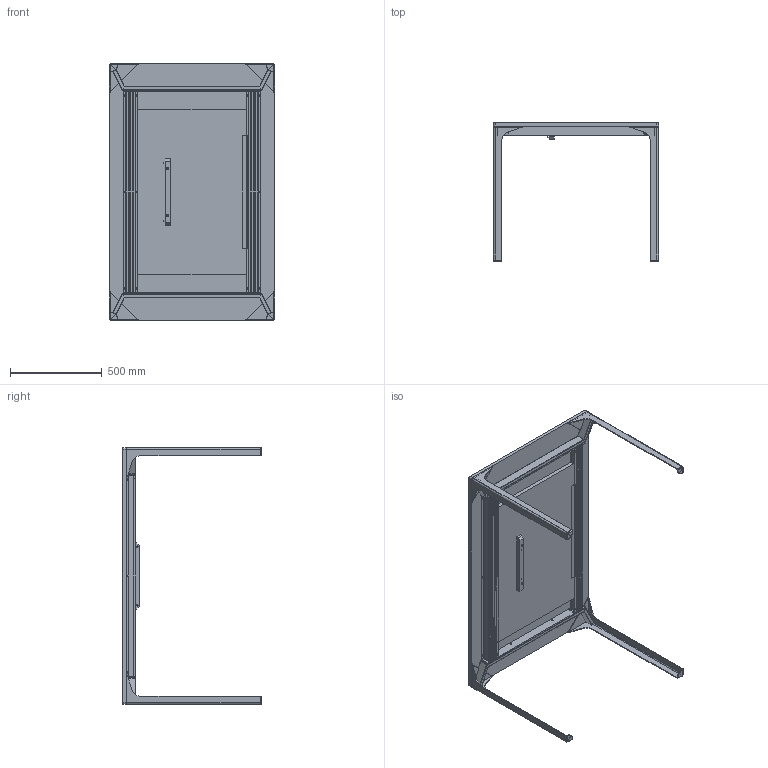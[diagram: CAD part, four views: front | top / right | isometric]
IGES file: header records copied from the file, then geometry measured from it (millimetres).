
Start section: SolidWorks IGES file using NURBS representation for surfaces
Global section: file name: R:\UFFICIO TECNICO\ARCHIVIO DISEGNI\3D\ARMANDO.IGS; native system: SolidWorks 2011; preprocessor: SolidWorks 2011; author: Alberto; date: 121203.165220; units: millimetre
Bounding box: 900 x 756.5 x 1400 mm (x, y, z)
Surface area: 6795328.6 mm2 (no closed solid volume)
Topology: 0 solids, 0 shells, 1334 faces, 16884 edges, 16860 vertices
Faces by surface type: bspline 1334
